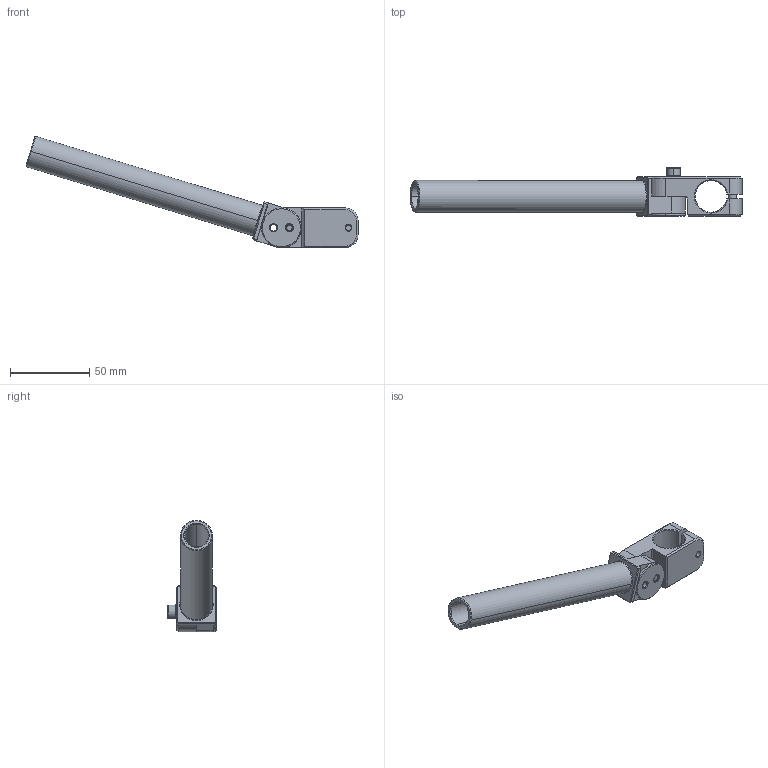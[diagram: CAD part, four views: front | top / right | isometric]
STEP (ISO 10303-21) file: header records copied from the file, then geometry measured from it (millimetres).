
FILE_DESCRIPTION (( 'STEP AP214' ), '1' );
FILE_NAME ('SEAH-2020L150.STEP', '2019-11-11T03:39:11', ( '微软用户' ), ( '微软中国' ), 'SwSTEP 2.0', 'SolidWorks 2016', '' );
FILE_SCHEMA (( 'AUTOMOTIVE_DESIGN' ));
Length unit declared in the file: millimetre
Products named in the file (1): SEAH-2020L150
Bounding box: 209.09 x 30.6 x 70.1 mm (x, y, z)
Volume: 49472 mm3; surface area: 30363.4 mm2
Topology: 7 solids, 7 shells, 550 faces, 1540 edges, 1005 vertices
Faces by surface type: plane 447, cylinder 52, cone 43, bspline 8
Entity records: 24715 total; most frequent: CARTESIAN_POINT 3975, DIRECTION 3133, ORIENTED_EDGE 3076, EDGE_CURVE 1538, AXIS2_PLACEMENT_3D 1073, VERTEX_POINT 1005, LINE 987, VECTOR 987
